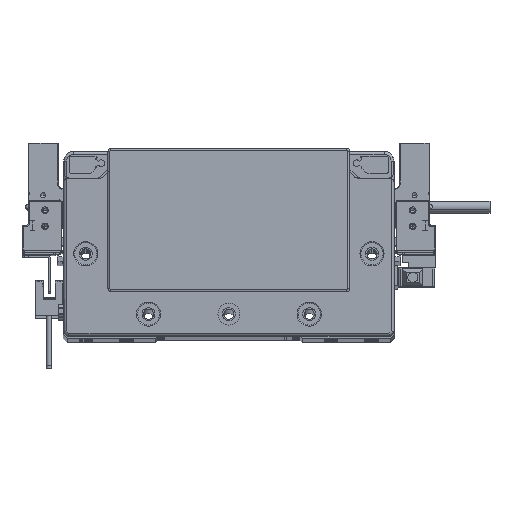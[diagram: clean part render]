
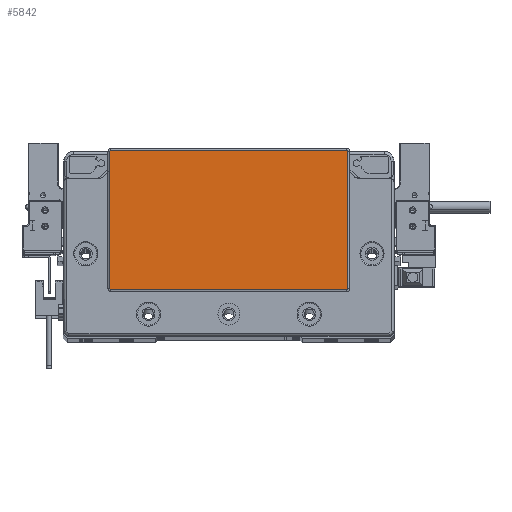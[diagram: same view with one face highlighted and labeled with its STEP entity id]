
A CAD part, top view. The second image highlights one B-rep face of the part: STEP entity #5842.
In plain terms, the highlighted planar face has unit normal (0, 0, 1) as drawn and (0, 0, -1) by its records, which use the part's own axes.
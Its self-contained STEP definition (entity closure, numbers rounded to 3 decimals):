
#1549 = DIRECTION ( 'NONE',  ( 0., 0., -1. ) ) ;
#5842 = ADVANCED_FACE ( 'NONE', ( #27870 ), #87422, .T. ) ;
#7844 = VERTEX_POINT ( 'NONE', #63942 ) ;
#9082 = EDGE_CURVE ( 'NONE', #78455, #36911, #20703, .T. ) ;
#10353 = CARTESIAN_POINT ( 'NONE',  ( -58.75, 45.3, -2. ) ) ;
#14007 = EDGE_CURVE ( 'NONE', #7844, #78455, #20174, .T. ) ;
#17472 = DIRECTION ( 'NONE',  ( -1., 0., 0. ) ) ;
#17747 = CARTESIAN_POINT ( 'NONE',  ( -58.75, -23.8, -2. ) ) ;
#18557 = CARTESIAN_POINT ( 'NONE',  ( -58.75, -23.8, -2. ) ) ;
#19411 = CARTESIAN_POINT ( 'NONE',  ( 58.75, -23.3, -2. ) ) ;
#20174 = LINE ( 'NONE', #37810, #94084 ) ;
#20703 = CIRCLE ( 'NONE', #52332, 0.5 ) ;
#21061 = DIRECTION ( 'NONE',  ( -1., 0., 0. ) ) ;
#21568 = CARTESIAN_POINT ( 'NONE',  ( -59.25, 45.3, -2. ) ) ;
#21606 = DIRECTION ( 'NONE',  ( 0., 0., -1. ) ) ;
#24054 = ORIENTED_EDGE ( 'NONE', *, *, #107480, .T. ) ;
#24934 = ORIENTED_EDGE ( 'NONE', *, *, #60728, .T. ) ;
#27031 = CARTESIAN_POINT ( 'NONE',  ( 59.25, 45.3, -2. ) ) ;
#27790 = VERTEX_POINT ( 'NONE', #17747 ) ;
#27870 = FACE_OUTER_BOUND ( 'NONE', #43944, .T. ) ;
#27926 = LINE ( 'NONE', #18557, #97351 ) ;
#28441 = DIRECTION ( 'NONE',  ( 1., 0., 0. ) ) ;
#28953 = DIRECTION ( 'NONE',  ( -1., 0., 0. ) ) ;
#36565 = AXIS2_PLACEMENT_3D ( 'NONE', #78303, #42111, #95925 ) ;
#36911 = VERTEX_POINT ( 'NONE', #27031 ) ;
#37565 = VERTEX_POINT ( 'NONE', #48394 ) ;
#37810 = CARTESIAN_POINT ( 'NONE',  ( 58.75, 45.8, -2. ) ) ;
#38371 = AXIS2_PLACEMENT_3D ( 'NONE', #10353, #1549, #52816 ) ;
#38632 = ORIENTED_EDGE ( 'NONE', *, *, #91952, .T. ) ;
#38907 = ORIENTED_EDGE ( 'NONE', *, *, #9082, .T. ) ;
#42111 = DIRECTION ( 'NONE',  ( 0., 0., -1. ) ) ;
#43873 = CARTESIAN_POINT ( 'NONE',  ( 0., 0., -2. ) ) ;
#43944 = EDGE_LOOP ( 'NONE', ( #24934, #46497, #24054, #38632, #80305, #98964, #75190, #38907 ) ) ;
#44552 = CARTESIAN_POINT ( 'NONE',  ( 58.75, 45.3, -2. ) ) ;
#46458 = DIRECTION ( 'NONE',  ( 0., -1., 0. ) ) ;
#46497 = ORIENTED_EDGE ( 'NONE', *, *, #89023, .T. ) ;
#48394 = CARTESIAN_POINT ( 'NONE',  ( 59.25, -23.3, -2. ) ) ;
#51171 = EDGE_CURVE ( 'NONE', #56676, #87926, #65652, .T. ) ;
#52280 = DIRECTION ( 'NONE',  ( -1., 0., 0. ) ) ;
#52332 = AXIS2_PLACEMENT_3D ( 'NONE', #44552, #94717, #52280 ) ;
#52816 = DIRECTION ( 'NONE',  ( -1., 0., 0. ) ) ;
#53153 = VECTOR ( 'NONE', #46458, 1000. ) ;
#54018 = CARTESIAN_POINT ( 'NONE',  ( 58.75, 45.8, -2. ) ) ;
#56676 = VERTEX_POINT ( 'NONE', #59891 ) ;
#59001 = CARTESIAN_POINT ( 'NONE',  ( -59.25, 45.3, -2. ) ) ;
#59891 = CARTESIAN_POINT ( 'NONE',  ( -59.25, -23.3, -2. ) ) ;
#60728 = EDGE_CURVE ( 'NONE', #36911, #37565, #104893, .T. ) ;
#63013 = CARTESIAN_POINT ( 'NONE',  ( 59.25, -23.3, -2. ) ) ;
#63942 = CARTESIAN_POINT ( 'NONE',  ( -58.75, 45.8, -2. ) ) ;
#65652 = LINE ( 'NONE', #21568, #74176 ) ;
#72291 = CARTESIAN_POINT ( 'NONE',  ( 58.75, -23.8, -2. ) ) ;
#72522 = AXIS2_PLACEMENT_3D ( 'NONE', #43873, #86869, #28953 ) ;
#74176 = VECTOR ( 'NONE', #88843, 1000. ) ;
#75190 = ORIENTED_EDGE ( 'NONE', *, *, #14007, .T. ) ;
#78303 = CARTESIAN_POINT ( 'NONE',  ( -58.75, -23.3, -2. ) ) ;
#78455 = VERTEX_POINT ( 'NONE', #54018 ) ;
#80305 = ORIENTED_EDGE ( 'NONE', *, *, #51171, .T. ) ;
#80361 = CIRCLE ( 'NONE', #97863, 0.5 ) ;
#86869 = DIRECTION ( 'NONE',  ( 0., 0., -1. ) ) ;
#87422 = PLANE ( 'NONE',  #72522 ) ;
#87926 = VERTEX_POINT ( 'NONE', #59001 ) ;
#88843 = DIRECTION ( 'NONE',  ( 0., 1., 0. ) ) ;
#89023 = EDGE_CURVE ( 'NONE', #37565, #106891, #80361, .T. ) ;
#89400 = CIRCLE ( 'NONE', #36565, 0.5 ) ;
#91952 = EDGE_CURVE ( 'NONE', #27790, #56676, #89400, .T. ) ;
#92394 = EDGE_CURVE ( 'NONE', #87926, #7844, #98257, .T. ) ;
#94084 = VECTOR ( 'NONE', #28441, 1000. ) ;
#94717 = DIRECTION ( 'NONE',  ( 0., 0., -1. ) ) ;
#95925 = DIRECTION ( 'NONE',  ( -1., 0., 0. ) ) ;
#97351 = VECTOR ( 'NONE', #17472, 1000. ) ;
#97863 = AXIS2_PLACEMENT_3D ( 'NONE', #19411, #21606, #21061 ) ;
#98257 = CIRCLE ( 'NONE', #38371, 0.5 ) ;
#98964 = ORIENTED_EDGE ( 'NONE', *, *, #92394, .T. ) ;
#104893 = LINE ( 'NONE', #63013, #53153 ) ;
#106891 = VERTEX_POINT ( 'NONE', #72291 ) ;
#107480 = EDGE_CURVE ( 'NONE', #106891, #27790, #27926, .T. ) ;
